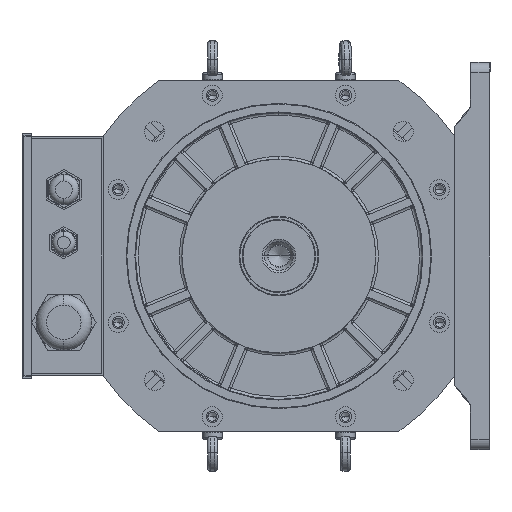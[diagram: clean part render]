
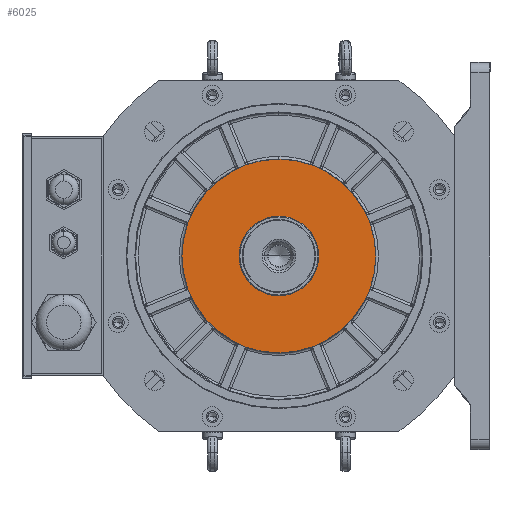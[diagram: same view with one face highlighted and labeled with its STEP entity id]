
A CAD part, left-side view. The second image highlights one B-rep face of the part: STEP entity #6025.
In plain terms, the highlighted planar face has unit normal (-1, 0, 0).
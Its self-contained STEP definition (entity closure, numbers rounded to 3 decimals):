
#137 = DIRECTION ( 'NONE',  ( -1., 0., 0. ) ) ;
#3269 = AXIS2_PLACEMENT_3D ( 'NONE', #53381, #11976, #41584 ) ;
#6025 = ADVANCED_FACE ( 'NONE', ( #51198, #49313 ), #11457, .T. ) ;
#8639 = EDGE_CURVE ( 'NONE', #68534, #55145, #75747, .T. ) ;
#11457 = PLANE ( 'NONE',  #3269 ) ;
#11951 = AXIS2_PLACEMENT_3D ( 'NONE', #55092, #60584, #60857 ) ;
#11976 = DIRECTION ( 'NONE',  ( -1., 0., 0. ) ) ;
#15461 = CARTESIAN_POINT ( 'NONE',  ( 6., 0., 0. ) ) ;
#17922 = EDGE_CURVE ( 'NONE', #65320, #28257, #40939, .T. ) ;
#23792 = ORIENTED_EDGE ( 'NONE', *, *, #33959, .F. ) ;
#28030 = CARTESIAN_POINT ( 'NONE',  ( 6., 0., 0. ) ) ;
#28045 = DIRECTION ( 'NONE',  ( -1., 0., 0. ) ) ;
#28257 = VERTEX_POINT ( 'NONE', #41972 ) ;
#31855 = CIRCLE ( 'NONE', #57574, 73. ) ;
#33959 = EDGE_CURVE ( 'NONE', #55145, #68534, #49400, .T. ) ;
#34017 = DIRECTION ( 'NONE',  ( 0., 0., 1. ) ) ;
#35992 = CARTESIAN_POINT ( 'NONE',  ( 6., 0., 0. ) ) ;
#39002 = CARTESIAN_POINT ( 'NONE',  ( 6., 0., -73. ) ) ;
#40939 = CIRCLE ( 'NONE', #11951, 73. ) ;
#41584 = DIRECTION ( 'NONE',  ( 0., 0., 1. ) ) ;
#41972 = CARTESIAN_POINT ( 'NONE',  ( 6., 0., 73. ) ) ;
#42059 = DIRECTION ( 'NONE',  ( 0., 0., 1. ) ) ;
#44831 = DIRECTION ( 'NONE',  ( 0., 0., 1. ) ) ;
#47008 = CARTESIAN_POINT ( 'NONE',  ( 6., 0., -30. ) ) ;
#47335 = EDGE_LOOP ( 'NONE', ( #51282, #47473 ) ) ;
#47473 = ORIENTED_EDGE ( 'NONE', *, *, #17922, .T. ) ;
#49313 = FACE_BOUND ( 'NONE', #51816, .T. ) ;
#49400 = CIRCLE ( 'NONE', #59704, 30. ) ;
#51198 = FACE_OUTER_BOUND ( 'NONE', #47335, .T. ) ;
#51282 = ORIENTED_EDGE ( 'NONE', *, *, #57727, .T. ) ;
#51816 = EDGE_LOOP ( 'NONE', ( #23792, #64325 ) ) ;
#53381 = CARTESIAN_POINT ( 'NONE',  ( 6., -73., 0. ) ) ;
#55092 = CARTESIAN_POINT ( 'NONE',  ( 6., 0., 0. ) ) ;
#55145 = VERTEX_POINT ( 'NONE', #68518 ) ;
#57574 = AXIS2_PLACEMENT_3D ( 'NONE', #15461, #28045, #44831 ) ;
#57727 = EDGE_CURVE ( 'NONE', #28257, #65320, #31855, .T. ) ;
#59704 = AXIS2_PLACEMENT_3D ( 'NONE', #28030, #69889, #34017 ) ;
#60584 = DIRECTION ( 'NONE',  ( -1., 0., 0. ) ) ;
#60857 = DIRECTION ( 'NONE',  ( 0., 0., 1. ) ) ;
#64325 = ORIENTED_EDGE ( 'NONE', *, *, #8639, .F. ) ;
#65320 = VERTEX_POINT ( 'NONE', #39002 ) ;
#66573 = AXIS2_PLACEMENT_3D ( 'NONE', #35992, #137, #42059 ) ;
#68518 = CARTESIAN_POINT ( 'NONE',  ( 6., 0., 30. ) ) ;
#68534 = VERTEX_POINT ( 'NONE', #47008 ) ;
#69889 = DIRECTION ( 'NONE',  ( -1., 0., 0. ) ) ;
#75747 = CIRCLE ( 'NONE', #66573, 30. ) ;
